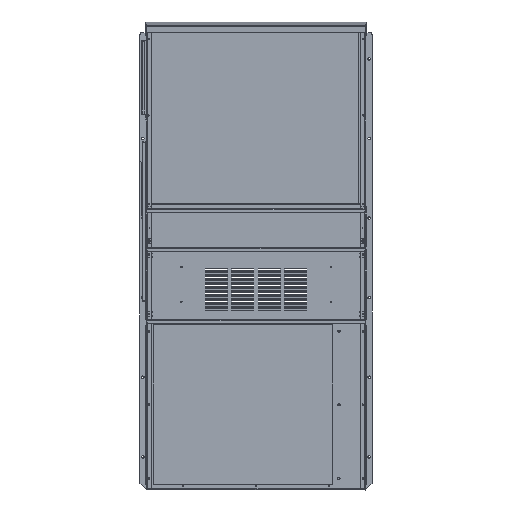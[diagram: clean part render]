
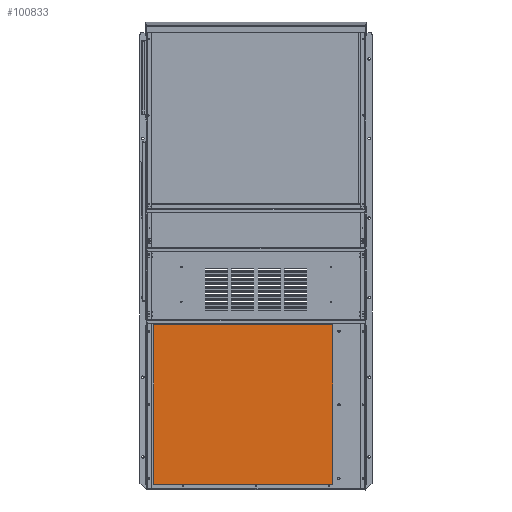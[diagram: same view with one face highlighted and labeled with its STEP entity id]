
A CAD part, top view. The second image highlights one B-rep face of the part: STEP entity #100833.
In plain terms, the highlighted planar face has unit normal (0, 0, 1).
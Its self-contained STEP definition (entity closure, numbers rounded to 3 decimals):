
#11 = EDGE_LOOP ( 'NONE', ( #82776, #45317, #81709, #76577 ) ) ;
#2111 = CARTESIAN_POINT ( 'NONE',  ( -4.86, -69.661, 16.411 ) ) ;
#3327 = VECTOR ( 'NONE', #104182, 39.37 ) ;
#8613 = DIRECTION ( 'NONE',  ( 0., -1., 0. ) ) ;
#11986 = DIRECTION ( 'NONE',  ( 0., -1., 0. ) ) ;
#13427 = CARTESIAN_POINT ( 'NONE',  ( -31.863, -69.661, 16.411 ) ) ;
#15728 = CARTESIAN_POINT ( 'NONE',  ( -4.86, -45.592, 16.411 ) ) ;
#24160 = CARTESIAN_POINT ( 'NONE',  ( -31.863, -45.592, 16.411 ) ) ;
#26015 = EDGE_CURVE ( 'NONE', #116555, #52962, #55438, .T. ) ;
#31651 = LINE ( 'NONE', #13427, #80672 ) ;
#36821 = EDGE_CURVE ( 'NONE', #52962, #124308, #99036, .T. ) ;
#38322 = VECTOR ( 'NONE', #40149, 39.37 ) ;
#40149 = DIRECTION ( 'NONE',  ( 0., 1., 0. ) ) ;
#45317 = ORIENTED_EDGE ( 'NONE', *, *, #102494, .F. ) ;
#52962 = VERTEX_POINT ( 'NONE', #15728 ) ;
#55438 = LINE ( 'NONE', #94330, #3327 ) ;
#57394 = CARTESIAN_POINT ( 'NONE',  ( -4.86, -69.661, 16.411 ) ) ;
#67228 = DIRECTION ( 'NONE',  ( 0., 0., 1. ) ) ;
#70386 = CARTESIAN_POINT ( 'NONE',  ( -4.86, -69.661, 16.411 ) ) ;
#76577 = ORIENTED_EDGE ( 'NONE', *, *, #36821, .F. ) ;
#80672 = VECTOR ( 'NONE', #91710, 39.37 ) ;
#81709 = ORIENTED_EDGE ( 'NONE', *, *, #85198, .F. ) ;
#82776 = ORIENTED_EDGE ( 'NONE', *, *, #26015, .F. ) ;
#85198 = EDGE_CURVE ( 'NONE', #124308, #90888, #31651, .T. ) ;
#88892 = CARTESIAN_POINT ( 'NONE',  ( -31.863, -69.661, 16.411 ) ) ;
#90888 = VERTEX_POINT ( 'NONE', #121761 ) ;
#91710 = DIRECTION ( 'NONE',  ( -1., 0., 0. ) ) ;
#93446 = LINE ( 'NONE', #88892, #38322 ) ;
#94330 = CARTESIAN_POINT ( 'NONE',  ( -31.863, -45.592, 16.411 ) ) ;
#96657 = FACE_OUTER_BOUND ( 'NONE', #11, .T. ) ;
#99036 = LINE ( 'NONE', #2111, #125126 ) ;
#100833 = ADVANCED_FACE ( 'NONE', ( #96657 ), #116106, .T. ) ;
#102494 = EDGE_CURVE ( 'NONE', #90888, #116555, #93446, .T. ) ;
#104182 = DIRECTION ( 'NONE',  ( 1., 0., 0. ) ) ;
#116106 = PLANE ( 'NONE',  #118426 ) ;
#116555 = VERTEX_POINT ( 'NONE', #24160 ) ;
#118426 = AXIS2_PLACEMENT_3D ( 'NONE', #57394, #67228, #8613 ) ;
#121761 = CARTESIAN_POINT ( 'NONE',  ( -31.863, -69.661, 16.411 ) ) ;
#124308 = VERTEX_POINT ( 'NONE', #70386 ) ;
#125126 = VECTOR ( 'NONE', #11986, 39.37 ) ;
